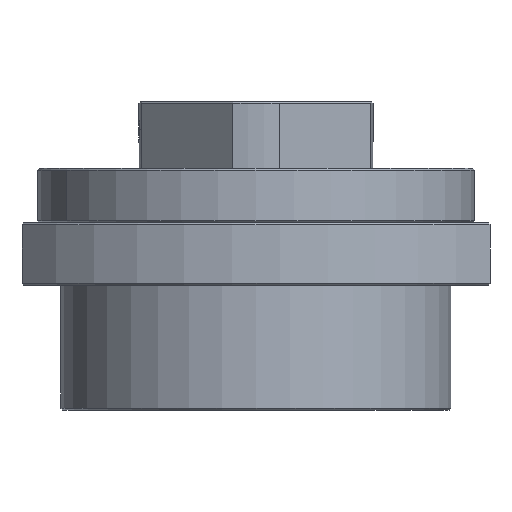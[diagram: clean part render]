
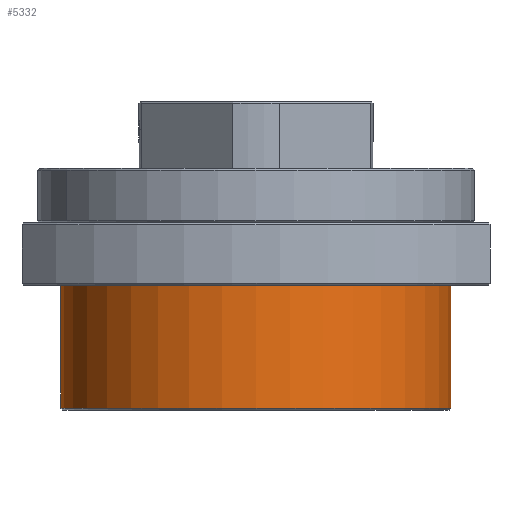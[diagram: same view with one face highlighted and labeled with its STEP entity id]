
A CAD part, left-side view. The second image highlights one B-rep face of the part: STEP entity #5332.
In plain terms, the highlighted cylindrical face has radius 50 mm (diameter 100 mm), a partial arc.
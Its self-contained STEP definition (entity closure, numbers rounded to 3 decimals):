
#137 = CARTESIAN_POINT ( 'NONE',  ( 0., 50., 8. ) ) ;
#1464 = CARTESIAN_POINT ( 'NONE',  ( 0., 0., 24. ) ) ;
#1465 = DIRECTION ( 'NONE',  ( 0., 0., 1. ) ) ;
#1466 = DIRECTION ( 'NONE',  ( 0., -1., 0. ) ) ;
#1847 = CARTESIAN_POINT ( 'NONE',  ( 0., 50., -23.5 ) ) ;
#1848 = CARTESIAN_POINT ( 'NONE',  ( 0., -50., -23.5 ) ) ;
#1923 = CARTESIAN_POINT ( 'NONE',  ( 0., -50., 8. ) ) ;
#2353 = FACE_OUTER_BOUND ( 'NONE', #8088, .T. ) ;
#2368 = AXIS2_PLACEMENT_3D ( 'NONE', #1464, #1465, #1466 ) ;
#2369 = CYLINDRICAL_SURFACE ( 'NONE', #2368, 50. ) ;
#4917 = EDGE_CURVE ( 'NONE', #9277, #9278, #7046, .T. ) ;
#4920 = EDGE_CURVE ( 'NONE', #9513, #9353, #7049, .T. ) ;
#4962 = EDGE_CURVE ( 'NONE', #9278, #9353, #12261, .T. ) ;
#4964 = EDGE_CURVE ( 'NONE', #9277, #9513, #12267, .T. ) ;
#5332 = ADVANCED_FACE ( 'NONE', ( #2353 ), #2369, .T. ) ;
#7046 = CIRCLE ( 'NONE', #11043, 50. ) ;
#7049 = CIRCLE ( 'NONE', #11013, 50. ) ;
#7820 = ORIENTED_EDGE ( 'NONE', *, *, #4920, .F. ) ;
#7822 = ORIENTED_EDGE ( 'NONE', *, *, #4917, .T. ) ;
#7823 = ORIENTED_EDGE ( 'NONE', *, *, #4964, .F. ) ;
#7824 = ORIENTED_EDGE ( 'NONE', *, *, #4962, .T. ) ;
#8088 = EDGE_LOOP ( 'NONE', ( #7823, #7822, #7824, #7820 ) ) ;
#9277 = VERTEX_POINT ( 'NONE', #1847 ) ;
#9278 = VERTEX_POINT ( 'NONE', #1848 ) ;
#9353 = VERTEX_POINT ( 'NONE', #1923 ) ;
#9513 = VERTEX_POINT ( 'NONE', #137 ) ;
#11013 = AXIS2_PLACEMENT_3D ( 'NONE', #12134, #12135, #12136 ) ;
#11043 = AXIS2_PLACEMENT_3D ( 'NONE', #12125, #12126, #12127 ) ;
#11087 = VECTOR ( 'NONE', #12263, 1000. ) ;
#11089 = VECTOR ( 'NONE', #12269, 1000. ) ;
#12125 = CARTESIAN_POINT ( 'NONE',  ( 0., 0., -23.5 ) ) ;
#12126 = DIRECTION ( 'NONE',  ( 0., 0., 1. ) ) ;
#12127 = DIRECTION ( 'NONE',  ( 0., -1., 0. ) ) ;
#12134 = CARTESIAN_POINT ( 'NONE',  ( 0., 0., 8. ) ) ;
#12135 = DIRECTION ( 'NONE',  ( 0., 0., 1. ) ) ;
#12136 = DIRECTION ( 'NONE',  ( 0., -1., 0. ) ) ;
#12261 = LINE ( 'NONE', #12262, #11087 ) ;
#12262 = CARTESIAN_POINT ( 'NONE',  ( 0., -50., 24. ) ) ;
#12263 = DIRECTION ( 'NONE',  ( 0., 0., 1. ) ) ;
#12267 = LINE ( 'NONE', #12268, #11089 ) ;
#12268 = CARTESIAN_POINT ( 'NONE',  ( 0., 50., 24. ) ) ;
#12269 = DIRECTION ( 'NONE',  ( 0., 0., 1. ) ) ;
